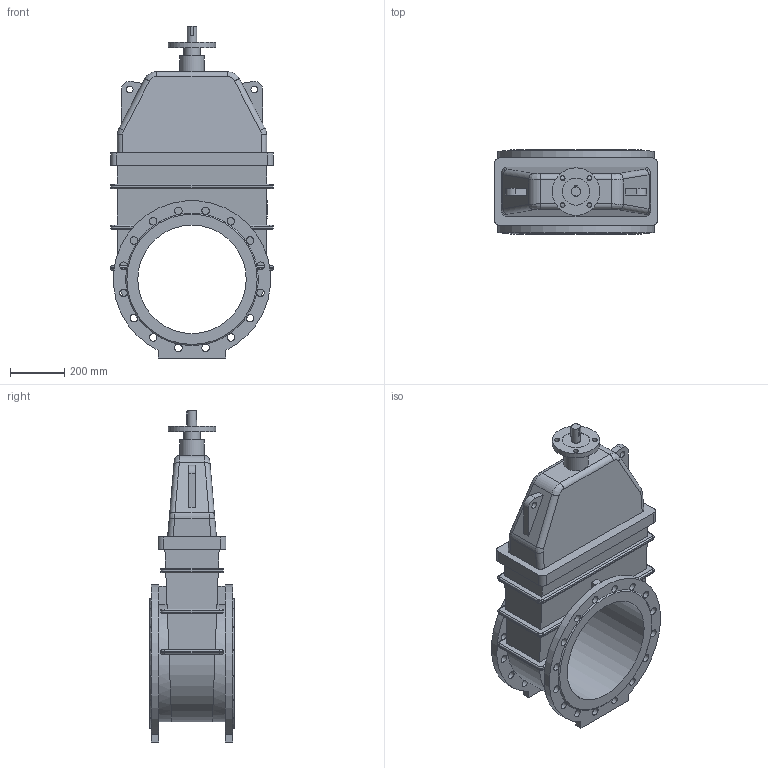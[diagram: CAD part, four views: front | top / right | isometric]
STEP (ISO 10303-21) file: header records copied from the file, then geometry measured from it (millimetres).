
FILE_DESCRIPTION(('STEP AP203'), '1');
FILE_NAME('Çàäâèæêà 47GVA DN400 PN10 áåç èñïîëíèò. ìåõ.', '', ('UNSPECIFIED'), ('UNSPECIFIED'), 'ASCON STEP Converter 1.6', 'ASCON Math Kernel', '');
FILE_SCHEMA(('CONFIG_CONTROL_DESIGN'));
Length unit declared in the file: millimetre
Bounding box: 600 x 310 x 1224 mm (x, y, z)
Volume: 76637856.5 mm3; surface area: 2629218.4 mm2
Topology: 1 solids, 1 shells, 265 faces, 762 edges, 486 vertices
Faces by surface type: cylinder 123, plane 108, bspline 32, cone 2
Full cylindrical faces by diameter (mm): 18 x4, 25 x2, 28 x32, 34 x1, 60 x1, 90 x1, 100 x1, 175 x1, 400 x1
Entity records: 15196 total; most frequent: CARTESIAN_POINT 6386, ORIENTED_EDGE 1432, DIRECTION 1298, EDGE_CURVE 716, AXIS2_PLACEMENT_3D 490, VERTEX_POINT 486, EDGE_LOOP 376, FACE_BOUND 319
